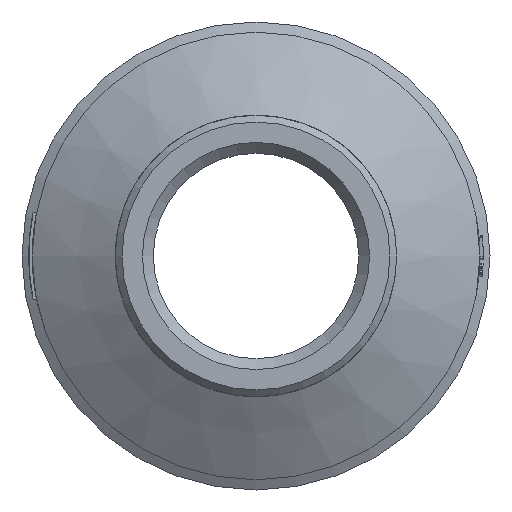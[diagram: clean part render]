
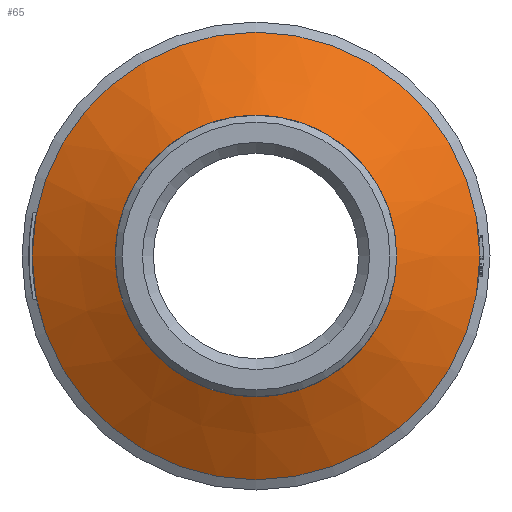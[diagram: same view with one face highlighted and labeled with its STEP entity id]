
A CAD part, front view. The second image highlights one B-rep face of the part: STEP entity #65.
In plain terms, the highlighted conical face has half-angle 60 degrees and reference radius 26.25 mm.
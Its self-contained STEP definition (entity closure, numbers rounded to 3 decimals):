
#65=ADVANCED_FACE('',(#296,#298),#300,.T.);
#296=FACE_BOUND('',#297,.T.);
#297=EDGE_LOOP('',(#1184,#1185,#1186,#1187,#1188,#1189,#1190,#1191,#1192));
#298=FACE_OUTER_BOUND('',#299,.T.);
#299=EDGE_LOOP('',(#1193));
#300=CONICAL_SURFACE('',#301,26.25,1.047);
#301=AXIS2_PLACEMENT_3D('',#302,#303,#304);
#302=CARTESIAN_POINT('',(0.,-26.103,0.));
#303=DIRECTION('',(0.,1.,0.));
#304=DIRECTION('',(1.,0.,0.));
#1184=ORIENTED_EDGE('',*,*,#2102,.F.);
#1185=ORIENTED_EDGE('',*,*,#2103,.F.);
#1186=ORIENTED_EDGE('',*,*,#2093,.F.);
#1187=ORIENTED_EDGE('',*,*,#2104,.F.);
#1188=ORIENTED_EDGE('',*,*,#2105,.F.);
#1189=ORIENTED_EDGE('',*,*,#2106,.F.);
#1190=ORIENTED_EDGE('',*,*,#2107,.F.);
#1191=ORIENTED_EDGE('',*,*,#2089,.F.);
#1192=ORIENTED_EDGE('',*,*,#2100,.F.);
#1193=ORIENTED_EDGE('',*,*,#2108,.F.);
#2089=EDGE_CURVE('',#2468,#2470,#2471,.T.);
#2093=EDGE_CURVE('',#2476,#2478,#2479,.T.);
#2100=EDGE_CURVE('',#2490,#2468,#2491,.T.);
#2102=EDGE_CURVE('',#2493,#2490,#2494,.F.);
#2103=EDGE_CURVE('',#2478,#2493,#2495,.F.);
#2104=EDGE_CURVE('',#2496,#2476,#2497,.T.);
#2105=EDGE_CURVE('',#2498,#2496,#2499,.F.);
#2106=EDGE_CURVE('',#2500,#2498,#2501,.F.);
#2107=EDGE_CURVE('',#2470,#2500,#2502,.F.);
#2108=EDGE_CURVE('',#2503,#2503,#2504,.F.);
#2468=VERTEX_POINT('',#3123);
#2470=VERTEX_POINT('',#3127);
#2471=CIRCLE('',#3128,20.75);
#2476=VERTEX_POINT('',#3141);
#2478=VERTEX_POINT('',#3145);
#2479=CIRCLE('',#3146,20.75);
#2490=VERTEX_POINT('',#3181);
#2491=B_SPLINE_CURVE_WITH_KNOTS('',3,
(#3182,#3183,#3184,#3185,#3186,#3187,#3188,#3189),
.UNSPECIFIED.,.F.,.F.,
(4,1,1,1,1,4),
(0.,0.171,0.397,0.619,0.838,1.),
.UNSPECIFIED.);
#2493=VERTEX_POINT('',#3193);
#2494=CIRCLE('',#3194,19.5);
#2495=B_SPLINE_CURVE_WITH_KNOTS('',3,
(#3198,#3199,#3200,#3201,#3202,#3203,#3204,#3205),
.UNSPECIFIED.,.F.,.F.,
(4,1,1,1,1,4),
(0.,0.171,0.397,0.619,0.838,1.),
.UNSPECIFIED.);
#2496=VERTEX_POINT('',#3206);
#2497=B_SPLINE_CURVE_WITH_KNOTS('',3,
(#3207,#3208,#3209,#3210,#3211,#3212,#3213,#3214),
.UNSPECIFIED.,.F.,.F.,
(4,1,1,1,1,4),
(0.,0.171,0.397,0.619,0.838,1.),
.UNSPECIFIED.);
#2498=VERTEX_POINT('',#3215);
#2499=CIRCLE('',#3216,19.5);
#2500=VERTEX_POINT('',#3220);
#2501=CIRCLE('',#3221,19.5);
#2502=B_SPLINE_CURVE_WITH_KNOTS('',3,
(#3225,#3226,#3227,#3228,#3229,#3230,#3231,#3232),
.UNSPECIFIED.,.F.,.F.,
(4,1,1,1,1,4),
(0.,0.171,0.397,0.619,0.838,1.),
.UNSPECIFIED.);
#2503=VERTEX_POINT('',#3233);
#2504=CIRCLE('',#3234,33.);
#3123=CARTESIAN_POINT('',(2.5,-29.278,20.599));
#3127=CARTESIAN_POINT('',(-2.5,-29.278,20.599));
#3128=AXIS2_PLACEMENT_3D('',#3129,#3130,#3131);
#3129=CARTESIAN_POINT('',(0.,-29.278,0.));
#3130=DIRECTION('',(0.,-1.,0.));
#3131=DIRECTION('',(0.12,0.,0.993));
#3141=CARTESIAN_POINT('',(-2.5,-29.278,-20.599));
#3145=CARTESIAN_POINT('',(2.5,-29.278,-20.599));
#3146=AXIS2_PLACEMENT_3D('',#3147,#3148,#3149);
#3147=CARTESIAN_POINT('',(0.,-29.278,0.));
#3148=DIRECTION('',(0.,-1.,0.));
#3149=DIRECTION('',(-0.12,0.,-0.993));
#3181=CARTESIAN_POINT('',(2.851,-30.,19.291));
#3182=CARTESIAN_POINT('',(2.851,-30.,19.291));
#3183=CARTESIAN_POINT('',(2.831,-29.959,19.365));
#3184=CARTESIAN_POINT('',(2.784,-29.864,19.539));
#3185=CARTESIAN_POINT('',(2.712,-29.715,19.809));
#3186=CARTESIAN_POINT('',(2.634,-29.555,20.099));
#3187=CARTESIAN_POINT('',(2.563,-29.409,20.362));
#3188=CARTESIAN_POINT('',(2.519,-29.317,20.528));
#3189=CARTESIAN_POINT('',(2.5,-29.278,20.599));
#3193=CARTESIAN_POINT('',(2.851,-30.,-19.291));
#3194=AXIS2_PLACEMENT_3D('',#3195,#3196,#3197);
#3195=CARTESIAN_POINT('',(0.,-30.,0.));
#3196=DIRECTION('',(0.,1.,0.));
#3197=DIRECTION('',(0.146,0.,0.989));
#3198=CARTESIAN_POINT('',(2.851,-30.,-19.291));
#3199=CARTESIAN_POINT('',(2.831,-29.959,-19.365));
#3200=CARTESIAN_POINT('',(2.784,-29.864,-19.539));
#3201=CARTESIAN_POINT('',(2.712,-29.715,-19.809));
#3202=CARTESIAN_POINT('',(2.634,-29.555,-20.099));
#3203=CARTESIAN_POINT('',(2.563,-29.409,-20.362));
#3204=CARTESIAN_POINT('',(2.519,-29.317,-20.528));
#3205=CARTESIAN_POINT('',(2.5,-29.278,-20.599));
#3206=CARTESIAN_POINT('',(-2.851,-30.,-19.291));
#3207=CARTESIAN_POINT('',(-2.851,-30.,-19.291));
#3208=CARTESIAN_POINT('',(-2.831,-29.959,-19.365));
#3209=CARTESIAN_POINT('',(-2.784,-29.864,-19.539));
#3210=CARTESIAN_POINT('',(-2.712,-29.715,-19.809));
#3211=CARTESIAN_POINT('',(-2.634,-29.555,-20.099));
#3212=CARTESIAN_POINT('',(-2.563,-29.409,-20.362));
#3213=CARTESIAN_POINT('',(-2.519,-29.317,-20.528));
#3214=CARTESIAN_POINT('',(-2.5,-29.278,-20.599));
#3215=CARTESIAN_POINT('',(-19.5,-30.,0.));
#3216=AXIS2_PLACEMENT_3D('',#3217,#3218,#3219);
#3217=CARTESIAN_POINT('',(0.,-30.,0.));
#3218=DIRECTION('',(0.,1.,0.));
#3219=DIRECTION('',(-0.146,0.,-0.989));
#3220=CARTESIAN_POINT('',(-2.851,-30.,19.291));
#3221=AXIS2_PLACEMENT_3D('',#3222,#3223,#3224);
#3222=CARTESIAN_POINT('',(0.,-30.,0.));
#3223=DIRECTION('',(0.,1.,0.));
#3224=DIRECTION('',(-1.,0.,0.));
#3225=CARTESIAN_POINT('',(-2.851,-30.,19.291));
#3226=CARTESIAN_POINT('',(-2.831,-29.959,19.365));
#3227=CARTESIAN_POINT('',(-2.784,-29.864,19.539));
#3228=CARTESIAN_POINT('',(-2.712,-29.715,19.809));
#3229=CARTESIAN_POINT('',(-2.634,-29.555,20.099));
#3230=CARTESIAN_POINT('',(-2.563,-29.409,20.362));
#3231=CARTESIAN_POINT('',(-2.519,-29.317,20.528));
#3232=CARTESIAN_POINT('',(-2.5,-29.278,20.599));
#3233=CARTESIAN_POINT('',(-33.,-22.206,0.));
#3234=AXIS2_PLACEMENT_3D('',#3235,#3236,#3237);
#3235=CARTESIAN_POINT('',(0.,-22.206,0.));
#3236=DIRECTION('',(0.,-1.,0.));
#3237=DIRECTION('',(-1.,0.,0.));
